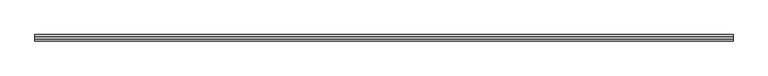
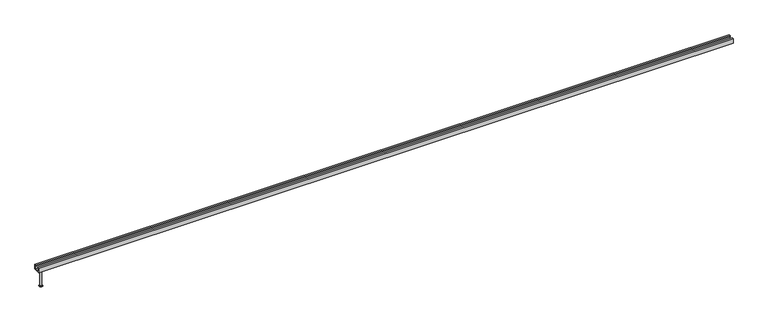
"""IFC4 building model written with IfcOpenShell, lengths in millimetres: fastener geometry, JTA-W JORDAHL® AnchorChannels : JTA-W L=6000 mm."""

from ifc_helpers import new_model, si_unit, frame, origin, place, context, project, spatial, polyline, circle_curve, outline, extrude, source, transform, mapped, element, save
from ifc_brep_helpers import plane_surface, cylinder_surface, revolved_surface, advanced_brep


def fastener_a81f9f25(model_context):
    return source(origin(), model_context, "Body", "SolidModel", [
        advanced_brep(
        [(35.0, 0.0, -42.0), (12.0, 0.0, -42.0), (58.0, 0.0, -42.0), (21.0, 0.0, -190.0), (35.0, 0.0, -190.0), (49.0, 0.0, -190.0), (21.0, 0.0, -188.0), (49.0, 0.0, -188.0), (27.2, 0.0, -184.4204283), (42.8, 0.0, -184.4204283), (27.2, 0.0, -46.0), (42.8, 0.0, -46.0)],
        [
            (0, 1),
            (1, 2, circle_curve(frame((35.0, 0.0, -42.0), z_axis=(0.0, 0.0, 1.0), x_axis=(1.0, 0.0, 0.0)), 23.0)),
            (2, 0),
            (2, 1, circle_curve(frame((35.0, 0.0, -42.0), z_axis=(0.0, 0.0, 1.0), x_axis=(1.0, 0.0, 0.0)), 23.0)),
            (3, 4),
            (4, 5),
            (5, 3, circle_curve(frame((35.0, 0.0, -190.0), z_axis=(0.0, 0.0, -1.0), x_axis=(1.0, 0.0, 0.0)), 14.0)),
            (3, 5, circle_curve(frame((35.0, 0.0, -190.0), z_axis=(0.0, 0.0, -1.0), x_axis=(1.0, 0.0, 0.0)), 14.0)),
            (6, 3),
            (5, 7),
            (7, 6, circle_curve(frame((35.0, 0.0, -188.0), z_axis=(0.0, 0.0, -1.0), x_axis=(1.0, 0.0, 0.0)), 14.0)),
            (6, 7, circle_curve(frame((35.0, 0.0, -188.0), z_axis=(0.0, 0.0, -1.0), x_axis=(1.0, 0.0, 0.0)), 14.0)),
            (8, 6),
            (7, 9),
            (9, 8, circle_curve(frame((35.0, 0.0, -184.4204283), z_axis=(0.0, 0.0, -1.0), x_axis=(1.0, 0.0, 0.0)), 7.8)),
            (8, 9, circle_curve(frame((35.0, 0.0, -184.4204283), z_axis=(0.0, 0.0, -1.0), x_axis=(1.0, 0.0, 0.0)), 7.8)),
            (10, 8),
            (9, 11),
            (11, 10, circle_curve(frame((35.0, 0.0, -46.0), z_axis=(0.0, 0.0, -1.0), x_axis=(1.0, 0.0, 0.0)), 7.8)),
            (10, 11, circle_curve(frame((35.0, 0.0, -46.0), z_axis=(0.0, 0.0, -1.0), x_axis=(1.0, 0.0, 0.0)), 7.8)),
            (1, 10),
            (11, 2),
        ],
        [
            plane_surface(frame((35.0, 0.0, -42.0), z_axis=(0.0, 0.0, 1.0), x_axis=(1.0, 0.0, 0.0))),
            plane_surface(frame((35.0, 0.0, -190.0), z_axis=(0.0, 0.0, -1.0), x_axis=(1.0, 0.0, 0.0))),
            cylinder_surface(frame((35.0, 0.0, 2362.3150031), z_axis=(0.0, 0.0, 1.0), x_axis=(1.0, 0.0, 0.0)), 14.0),
            revolved_surface(polyline([(49.0, 0.0, -188.0), (42.8, 0.0, -184.4204283)]), (35.0, 0.0, 2362.3150031), (0.0, 0.0, 1.0)),
            cylinder_surface(frame((35.0, 0.0, 2362.3150031), z_axis=(0.0, 0.0, 1.0), x_axis=(1.0, 0.0, 0.0)), 7.8),
            revolved_surface(polyline([(42.8, 0.0, -46.0), (58.0, 0.0, -42.0)]), (35.0, 0.0, 2362.3150031), (0.0, 0.0, 1.0)),
        ],
        [
            (0, [[1, 2, 3]]),
            (0, [[-3, 4, -1]]),
            (1, [[5, 6, 7]]),
            (1, [[-6, -5, 8]]),
            (2, [[9, -7, 10, 11]]),
            (2, [[-10, -8, -9, 12]]),
            (3, [[13, -11, 14, 15]]),
            (3, [[-14, -12, -13, 16]]),
            (4, [[17, -15, 18, 19]]),
            (4, [[-18, -16, -17, 20]]),
            (5, [[21, -19, 22, -2]]),
            (5, [[-22, -20, -21, -4]]),
        ],
    ),
        extrude(outline(polyline([(-27.5, 0.0), (-13.0, 0.0), (-13.0, -10.0), (-22.5, -10.0), (-22.5, -37.0), (22.5, -37.0), (22.5, -10.0), (13.0, -10.0), (13.0, 0.0), (27.5, 0.0), (27.5, -42.0), (-27.5, -42.0), (-27.5, 0.0)])), frame((0.0, 0.0, 0.0), z_axis=(1.0, 0.0, 0.0), x_axis=(0.0, 1.0, 0.0)), (0.0, 0.0, 1.0), 6000.0),
    ])


if __name__ == "__main__":
    model = new_model("IFC4")
    model_context = context("Model", 3, world=origin())
    ifc_project = project(units=[si_unit("LENGTHUNIT", "METRE", prefix="MILLI")], contexts=[model_context])
    site = spatial("IfcSite", under=ifc_project)
    building = spatial("IfcBuilding", under=site)
    placement = place(None, origin())
    fastener_shape = fastener_a81f9f25(model_context)
    element("IfcFastener", 1, ObjectType="JTA-W JORDAHL® AnchorChannels : JTA-W L=6000 mm", at=placement, inside=building, context=model_context, shape_type="MappedRepresentation", body=[
        mapped(fastener_shape, transform((0.0, 0.0, 0.0), x_axis=(1.0, 0.0, 0.0), y_axis=(0.0, 1.0, 0.0), z_axis=(0.0, 0.0, 1.0))),
    ])
    save(model, "model.ifc")
